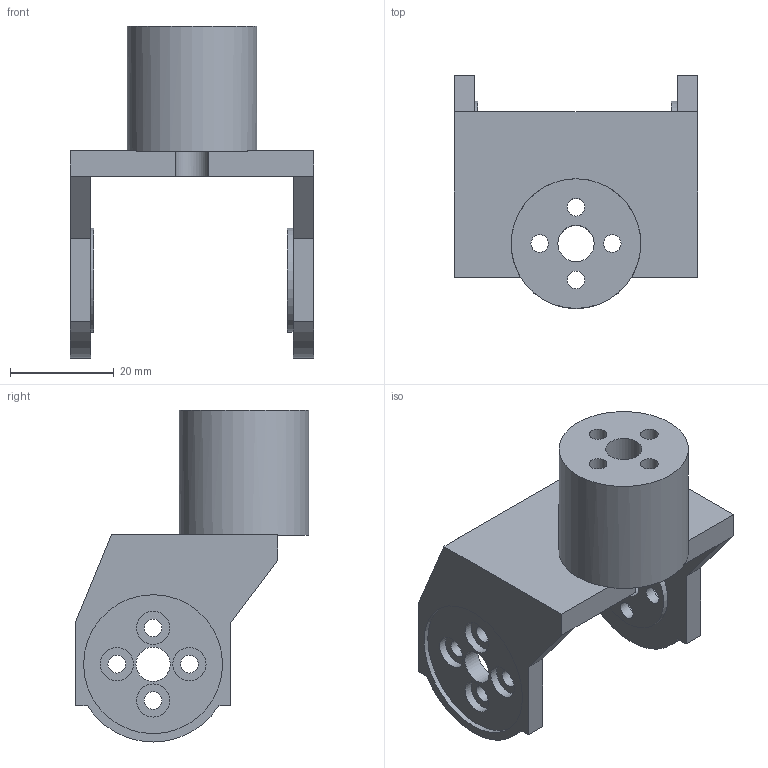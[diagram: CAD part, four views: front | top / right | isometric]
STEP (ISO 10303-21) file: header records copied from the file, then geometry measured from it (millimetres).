
FILE_DESCRIPTION(/* description */ ('Transverse pitch at Z384; fixed swivel horn seat at Y-17.5 Z433. Four M3 horn holes and underside centre-driver access. Assemble head and neck before fitting external pitch screws.'),/* implementation_level */ '2;1');
FILE_NAME(/* name */ '16 Pitch fork and fixed swivel post.step',/* time_stamp */ '2026-10-02T18:55:09+01:00',/* author */ (''),/* organization */ (''),/* preprocessor_version */ 'ST-DEVELOPER v20.2',/* originating_system */ 'Autodesk Translation Framework v15.15.0.0',/* authorisation */ '');
FILE_SCHEMA (('AUTOMOTIVE_DESIGN { 1 0 10303 214 3 1 1 }'));
Length unit declared in the file: millimetre
Products named in the file (1): 2026-10-02-18-55-09-287
Bounding box: 47 x 45 x 64 mm (x, y, z)
Volume: 21321.2 mm3; surface area: 13601.6 mm2
Topology: 1 solids, 1 shells, 73 faces, 164 edges, 108 vertices
Faces by surface type: plane 39, cylinder 34
Full cylindrical faces by diameter (mm): 3.4 x12, 6.4 x12, 6.6 x2, 7 x1, 20 x2, 25 x1, 26.8 x2
Entity records: 2151 total; most frequent: DIRECTION 384, CARTESIAN_POINT 346, ORIENTED_EDGE 328, EDGE_CURVE 164, AXIS2_PLACEMENT_3D 146, EDGE_LOOP 118, VERTEX_POINT 108, LINE 92
